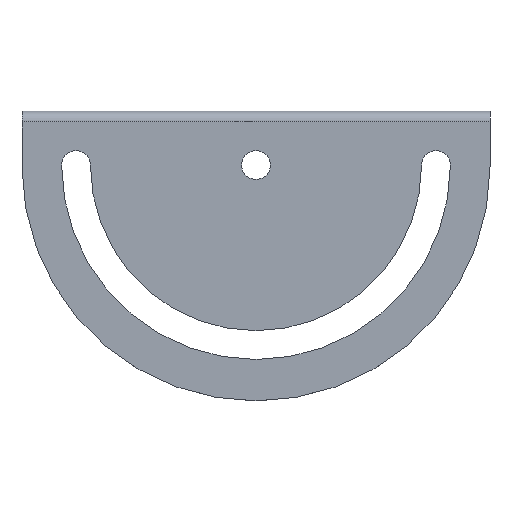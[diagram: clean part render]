
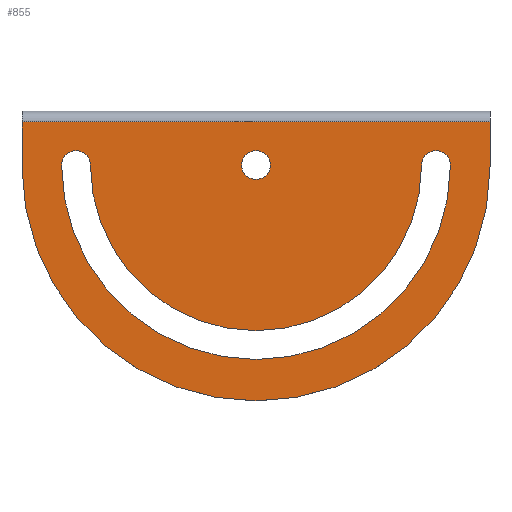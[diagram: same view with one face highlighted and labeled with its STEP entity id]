
A CAD part, top view. The second image highlights one B-rep face of the part: STEP entity #855.
In plain terms, the highlighted planar face has unit normal (0, 0, 1).
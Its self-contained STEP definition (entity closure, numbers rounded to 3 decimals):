
#4 = CARTESIAN_POINT ( 'NONE',  ( 20.79, -19.779, 31. ) ) ;
#7 = DIRECTION ( 'NONE',  ( 1., 0., 0. ) ) ;
#19 = ORIENTED_EDGE ( 'NONE', *, *, #406, .F. ) ;
#30 = CIRCLE ( 'NONE', #394, 4. ) ;
#43 = ORIENTED_EDGE ( 'NONE', *, *, #631, .F. ) ;
#50 = AXIS2_PLACEMENT_3D ( 'NONE', #675, #755, #299 ) ;
#53 = CIRCLE ( 'NONE', #719, 65. ) ;
#63 = CARTESIAN_POINT ( 'NONE',  ( -29.21, -19.779, 31. ) ) ;
#82 = CARTESIAN_POINT ( 'NONE',  ( -44.21, -7.779, 31. ) ) ;
#94 = ORIENTED_EDGE ( 'NONE', *, *, #715, .F. ) ;
#101 = CIRCLE ( 'NONE', #316, 4. ) ;
#103 = AXIS2_PLACEMENT_3D ( 'NONE', #4, #704, #779 ) ;
#105 = ORIENTED_EDGE ( 'NONE', *, *, #229, .T. ) ;
#112 = DIRECTION ( 'NONE',  ( 0., 0., -1. ) ) ;
#116 = DIRECTION ( 'NONE',  ( 0., 0., 1. ) ) ;
#125 = FACE_OUTER_BOUND ( 'NONE', #459, .T. ) ;
#129 = ORIENTED_EDGE ( 'NONE', *, *, #569, .F. ) ;
#132 = CARTESIAN_POINT ( 'NONE',  ( 85.79, -7.779, 31. ) ) ;
#133 = EDGE_LOOP ( 'NONE', ( #738, #288, #94, #129 ) ) ;
#137 = AXIS2_PLACEMENT_3D ( 'NONE', #649, #199, #736 ) ;
#154 = DIRECTION ( 'NONE',  ( 1., 0., 0. ) ) ;
#155 = EDGE_LOOP ( 'NONE', ( #43, #19 ) ) ;
#159 = LINE ( 'NONE', #82, #918 ) ;
#171 = AXIS2_PLACEMENT_3D ( 'NONE', #63, #933, #724 ) ;
#174 = EDGE_CURVE ( 'NONE', #701, #320, #797, .T. ) ;
#181 = DIRECTION ( 'NONE',  ( 1., 0., 0. ) ) ;
#184 = LINE ( 'NONE', #474, #568 ) ;
#199 = DIRECTION ( 'NONE',  ( 0., 0., 1. ) ) ;
#219 = DIRECTION ( 'NONE',  ( -1., 0., 0. ) ) ;
#222 = CARTESIAN_POINT ( 'NONE',  ( 74.79, -19.779, 31. ) ) ;
#229 = EDGE_CURVE ( 'NONE', #676, #660, #362, .T. ) ;
#237 = CARTESIAN_POINT ( 'NONE',  ( 20.79, -19.779, 31. ) ) ;
#240 = CARTESIAN_POINT ( 'NONE',  ( -44.21, -20.279, 31. ) ) ;
#242 = DIRECTION ( 'NONE',  ( 1., 0., 0. ) ) ;
#285 = DIRECTION ( 'NONE',  ( 0., 1., 0. ) ) ;
#288 = ORIENTED_EDGE ( 'NONE', *, *, #174, .F. ) ;
#299 = DIRECTION ( 'NONE',  ( 1., 0., 0. ) ) ;
#304 = CIRCLE ( 'NONE', #103, 4. ) ;
#313 = VERTEX_POINT ( 'NONE', #350 ) ;
#316 = AXIS2_PLACEMENT_3D ( 'NONE', #361, #875, #7 ) ;
#318 = DIRECTION ( 'NONE',  ( 1., 0., 0. ) ) ;
#320 = VERTEX_POINT ( 'NONE', #324 ) ;
#322 = VERTEX_POINT ( 'NONE', #401 ) ;
#324 = CARTESIAN_POINT ( 'NONE',  ( -25.21, -19.779, 31. ) ) ;
#335 = CARTESIAN_POINT ( 'NONE',  ( 70.79, -19.779, 31. ) ) ;
#350 = CARTESIAN_POINT ( 'NONE',  ( -33.21, -19.779, 31. ) ) ;
#361 = CARTESIAN_POINT ( 'NONE',  ( 20.79, -19.779, 31. ) ) ;
#362 = CIRCLE ( 'NONE', #828, 65. ) ;
#363 = ORIENTED_EDGE ( 'NONE', *, *, #584, .T. ) ;
#377 = EDGE_CURVE ( 'NONE', #320, #313, #693, .T. ) ;
#383 = AXIS2_PLACEMENT_3D ( 'NONE', #237, #112, #181 ) ;
#394 = AXIS2_PLACEMENT_3D ( 'NONE', #335, #116, #242 ) ;
#401 = CARTESIAN_POINT ( 'NONE',  ( 16.79, -19.779, 31. ) ) ;
#406 = EDGE_CURVE ( 'NONE', #322, #845, #101, .T. ) ;
#459 = EDGE_LOOP ( 'NONE', ( #920, #363, #651, #105, #466 ) ) ;
#466 = ORIENTED_EDGE ( 'NONE', *, *, #495, .T. ) ;
#474 = CARTESIAN_POINT ( 'NONE',  ( 85.79, -4.779, 31. ) ) ;
#493 = FACE_BOUND ( 'NONE', #133, .T. ) ;
#495 = EDGE_CURVE ( 'NONE', #660, #857, #53, .T. ) ;
#511 = CARTESIAN_POINT ( 'NONE',  ( -44.21, -7.779, 31. ) ) ;
#535 = CARTESIAN_POINT ( 'NONE',  ( 20.79, -20.279, 31. ) ) ;
#568 = VECTOR ( 'NONE', #285, 1000. ) ;
#569 = EDGE_CURVE ( 'NONE', #313, #587, #940, .T. ) ;
#584 = EDGE_CURVE ( 'NONE', #820, #871, #159, .T. ) ;
#586 = CARTESIAN_POINT ( 'NONE',  ( 85.79, -20.279, 31. ) ) ;
#587 = VERTEX_POINT ( 'NONE', #222 ) ;
#601 = DIRECTION ( 'NONE',  ( 0., 0., 1. ) ) ;
#616 = DIRECTION ( 'NONE',  ( 0., -1., 0. ) ) ;
#631 = EDGE_CURVE ( 'NONE', #845, #322, #304, .T. ) ;
#642 = EDGE_CURVE ( 'NONE', #871, #676, #842, .T. ) ;
#649 = CARTESIAN_POINT ( 'NONE',  ( 0., 0., 31. ) ) ;
#651 = ORIENTED_EDGE ( 'NONE', *, *, #642, .T. ) ;
#656 = VECTOR ( 'NONE', #616, 1000. ) ;
#660 = VERTEX_POINT ( 'NONE', #783 ) ;
#675 = CARTESIAN_POINT ( 'NONE',  ( 20.79, -19.779, 31. ) ) ;
#676 = VERTEX_POINT ( 'NONE', #240 ) ;
#677 = CARTESIAN_POINT ( 'NONE',  ( 24.79, -19.779, 31. ) ) ;
#689 = DIRECTION ( 'NONE',  ( 0., 0., 1. ) ) ;
#693 = CIRCLE ( 'NONE', #171, 4. ) ;
#701 = VERTEX_POINT ( 'NONE', #919 ) ;
#702 = CARTESIAN_POINT ( 'NONE',  ( 20.79, -20.279, 31. ) ) ;
#704 = DIRECTION ( 'NONE',  ( 0., 0., 1. ) ) ;
#715 = EDGE_CURVE ( 'NONE', #587, #701, #30, .T. ) ;
#719 = AXIS2_PLACEMENT_3D ( 'NONE', #535, #601, #154 ) ;
#724 = DIRECTION ( 'NONE',  ( 1., 0., 0. ) ) ;
#727 = CARTESIAN_POINT ( 'NONE',  ( -44.21, -4.779, 31. ) ) ;
#736 = DIRECTION ( 'NONE',  ( 1., 0., 0. ) ) ;
#738 = ORIENTED_EDGE ( 'NONE', *, *, #377, .F. ) ;
#741 = EDGE_CURVE ( 'NONE', #857, #820, #184, .T. ) ;
#755 = DIRECTION ( 'NONE',  ( 0., 0., 1. ) ) ;
#779 = DIRECTION ( 'NONE',  ( 1., 0., 0. ) ) ;
#783 = CARTESIAN_POINT ( 'NONE',  ( 20.79, -85.279, 31. ) ) ;
#797 = CIRCLE ( 'NONE', #383, 46. ) ;
#820 = VERTEX_POINT ( 'NONE', #132 ) ;
#828 = AXIS2_PLACEMENT_3D ( 'NONE', #702, #689, #318 ) ;
#842 = LINE ( 'NONE', #727, #656 ) ;
#845 = VERTEX_POINT ( 'NONE', #677 ) ;
#850 = FACE_BOUND ( 'NONE', #155, .T. ) ;
#855 = ADVANCED_FACE ( 'NONE', ( #493, #850, #125 ), #942, .T. ) ;
#857 = VERTEX_POINT ( 'NONE', #586 ) ;
#871 = VERTEX_POINT ( 'NONE', #511 ) ;
#875 = DIRECTION ( 'NONE',  ( 0., 0., 1. ) ) ;
#918 = VECTOR ( 'NONE', #219, 1000. ) ;
#919 = CARTESIAN_POINT ( 'NONE',  ( 66.79, -19.779, 31. ) ) ;
#920 = ORIENTED_EDGE ( 'NONE', *, *, #741, .T. ) ;
#933 = DIRECTION ( 'NONE',  ( 0., 0., 1. ) ) ;
#940 = CIRCLE ( 'NONE', #50, 54. ) ;
#942 = PLANE ( 'NONE',  #137 ) ;
